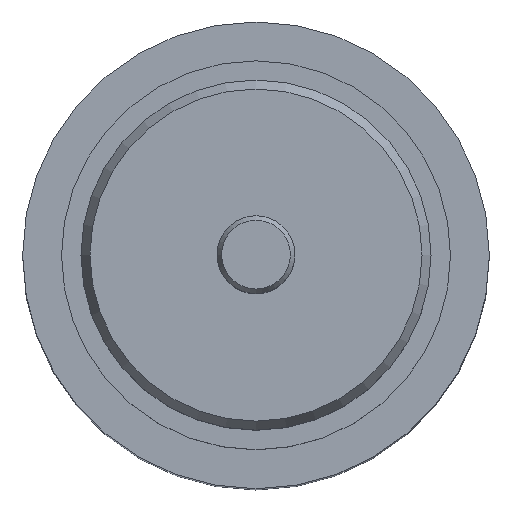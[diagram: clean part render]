
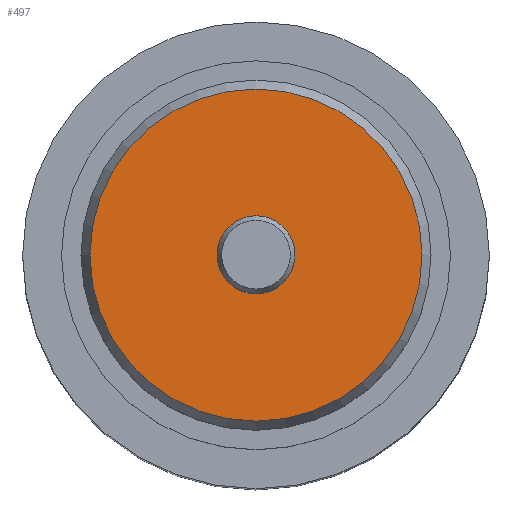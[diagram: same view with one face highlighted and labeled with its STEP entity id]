
A CAD part, top view. The second image highlights one B-rep face of the part: STEP entity #497.
In plain terms, the highlighted planar face has unit normal (0, 0, 1).
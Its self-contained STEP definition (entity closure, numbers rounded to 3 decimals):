
#497=ADVANCED_FACE('',(#638,#639),#600,.T.);
#600=PLANE('',#2462);
#638=FACE_BOUND('',#803,.T.);
#639=FACE_BOUND('',#804,.T.);
#803=EDGE_LOOP('',(#1715));
#804=EDGE_LOOP('',(#1716));
#1715=ORIENTED_EDGE('',*,*,#2265,.T.);
#1716=ORIENTED_EDGE('',*,*,#2266,.F.);
#1941=VERTEX_POINT('',#4367);
#1942=VERTEX_POINT('',#4369);
#2265=EDGE_CURVE('',#1941,#1941,#2305,.T.);
#2266=EDGE_CURVE('',#1942,#1942,#2306,.T.);
#2305=CIRCLE('',#2460,2.135);
#2306=CIRCLE('',#2461,0.5);
#2460=AXIS2_PLACEMENT_3D('',#4366,#2911,#2912);
#2461=AXIS2_PLACEMENT_3D('',#4368,#2913,#2914);
#2462=AXIS2_PLACEMENT_3D('',#4370,#2915,#2916);
#2911=DIRECTION('',(0.,0.,1.));
#2912=DIRECTION('',(1.,0.,0.));
#2913=DIRECTION('',(0.,0.,1.));
#2914=DIRECTION('',(1.,0.,0.));
#2915=DIRECTION('',(0.,0.,1.));
#2916=DIRECTION('',(1.,0.,0.));
#4366=CARTESIAN_POINT('',(0.,0.,1.9));
#4367=CARTESIAN_POINT('',(2.135,0.,1.9));
#4368=CARTESIAN_POINT('',(0.,0.,1.9));
#4369=CARTESIAN_POINT('',(0.5,0.,1.9));
#4370=CARTESIAN_POINT('',(0.,0.,1.9));
